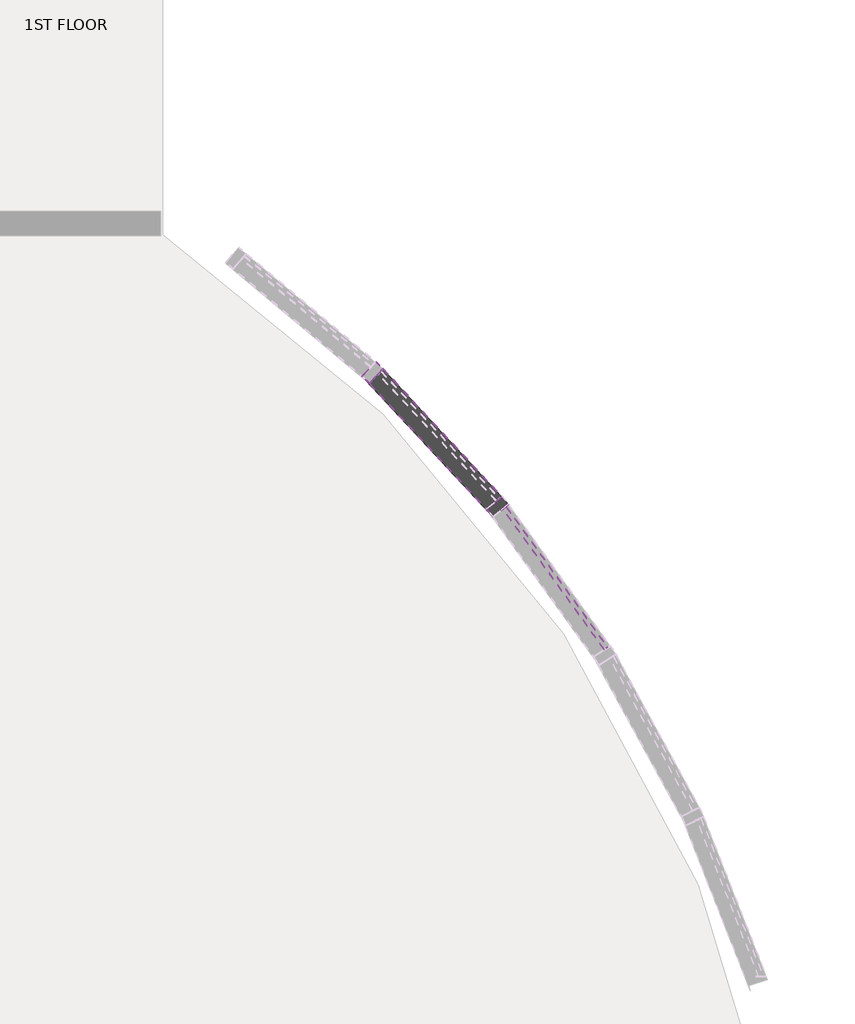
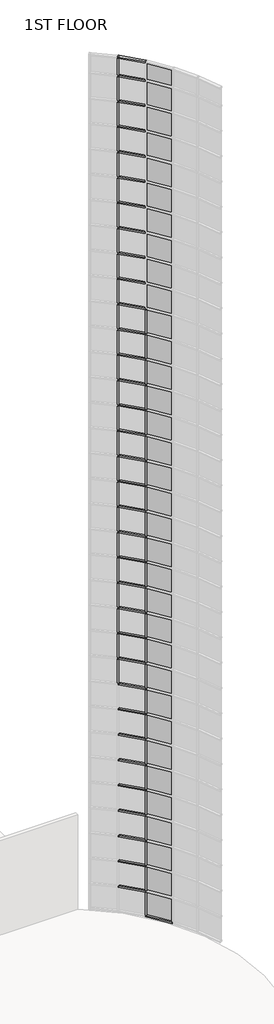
# One storey, part 13 of 17: 84 members, 34 plates.
"""IFC4 building model written with IfcOpenShell, lengths in millimetres."""

from ifc_helpers import new_model, si_unit, origin, place, context, project, spatial, transform, mapped, element, save
from components import member_56cb0dcd, member_0c249660, member_2b49869a, member_410c6227, system_panel_glazed_ce2914f7, system_panel_glazed_e049e42f, system_panel_glazed_5ae89cf9

model = new_model("IFC4")

# Units and contexts
model_context = context("Model", 3, world=origin())
ifc_project = project(units=[si_unit("LENGTHUNIT", "METRE", prefix="MILLI")], contexts=[model_context])

# Site, building, storey
site = spatial("IfcSite", under=ifc_project)
building = spatial("IfcBuilding", under=site)
storey = spatial("IfcBuildingStorey", under=building, Name="1ST FLOOR", Elevation=4572.0)

# Members
placement = place(None, origin())
member_shape = member_56cb0dcd(model_context)
element("IfcMember", 1, ObjectType="Rectangular Mullion : 2.5\" x 5\" rectangular", at=placement, inside=storey, context=model_context, shape_type="MappedRepresentation", body=[
    mapped(member_shape, transform((46140.9446058, 22842.8636289, 45720.0), x_axis=(0.0, 0.0, 1.0), y_axis=(-0.7318464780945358, -0.6814695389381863, 0.0), z_axis=(0.6814695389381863, -0.7318464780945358, 0.0))),
])
element("IfcMember", 2, ObjectType="Rectangular Mullion : 2.5\" x 5\" rectangular", at=placement, inside=storey, context=model_context, shape_type="MappedRepresentation", body=[
    mapped(member_shape, transform((46181.1531398, 22793.8758448, 4572.0), x_axis=(0.0, 0.0, -1.0), y_axis=(-0.8110758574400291, -0.5849409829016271, 0.0), z_axis=(-0.5849409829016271, 0.8110758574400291, 0.0))),
])
member_2_shape = member_0c249660(model_context)
element("IfcMember", 3, ObjectType="Rectangular Mullion : 2.5\" x 5\" rectangular", at=placement, inside=storey, context=model_context, shape_type="MappedRepresentation", body=[
    mapped(member_2_shape, transform((46140.9446058, 22842.8636289, 5791.2), x_axis=(0.0, 0.0, 1.0), y_axis=(-0.7318464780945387, -0.6814695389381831, 0.0), z_axis=(0.6814695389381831, -0.7318464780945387, 0.0))),
])
element("IfcMember", 4, ObjectType="Rectangular Mullion : 2.5\" x 5\" rectangular", at=placement, inside=storey, context=model_context, shape_type="MappedRepresentation", body=[
    mapped(member_2_shape, transform((46140.9446058, 22842.8636289, 7010.4), x_axis=(0.0, 0.0, 1.0), y_axis=(-0.7318464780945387, -0.6814695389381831, 0.0), z_axis=(0.6814695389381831, -0.7318464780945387, 0.0))),
])
element("IfcMember", 5, ObjectType="Rectangular Mullion : 2.5\" x 5\" rectangular", at=placement, inside=storey, context=model_context, shape_type="MappedRepresentation", body=[
    mapped(member_2_shape, transform((46140.9446058, 22842.8636289, 8229.6), x_axis=(0.0, 0.0, 1.0), y_axis=(-0.7318464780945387, -0.6814695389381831, 0.0), z_axis=(0.6814695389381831, -0.7318464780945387, 0.0))),
])
element("IfcMember", 6, ObjectType="Rectangular Mullion : 2.5\" x 5\" rectangular", at=placement, inside=storey, context=model_context, shape_type="MappedRepresentation", body=[
    mapped(member_2_shape, transform((46140.9446058, 22842.8636289, 9448.8), x_axis=(0.0, 0.0, 1.0), y_axis=(-0.7318464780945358, -0.6814695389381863, 0.0), z_axis=(0.6814695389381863, -0.7318464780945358, 0.0))),
])
element("IfcMember", 7, ObjectType="Rectangular Mullion : 2.5\" x 5\" rectangular", at=placement, inside=storey, context=model_context, shape_type="MappedRepresentation", body=[
    mapped(member_2_shape, transform((46140.9446058, 22842.8636289, 10668.0), x_axis=(0.0, 0.0, 1.0), y_axis=(-0.7318464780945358, -0.6814695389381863, 0.0), z_axis=(0.6814695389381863, -0.7318464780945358, 0.0))),
])
element("IfcMember", 8, ObjectType="Rectangular Mullion : 2.5\" x 5\" rectangular", at=placement, inside=storey, context=model_context, shape_type="MappedRepresentation", body=[
    mapped(member_2_shape, transform((46140.9446058, 22842.8636289, 11887.2), x_axis=(0.0, 0.0, 1.0), y_axis=(-0.7318464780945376, -0.6814695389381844, 0.0), z_axis=(0.6814695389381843, -0.7318464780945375, 0.0))),
])
element("IfcMember", 9, ObjectType="Rectangular Mullion : 2.5\" x 5\" rectangular", at=placement, inside=storey, context=model_context, shape_type="MappedRepresentation", body=[
    mapped(member_2_shape, transform((46140.9446058, 22842.8636289, 13106.4), x_axis=(0.0, 0.0, 1.0), y_axis=(-0.7318464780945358, -0.6814695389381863, 0.0), z_axis=(0.6814695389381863, -0.7318464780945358, 0.0))),
])
element("IfcMember", 10, ObjectType="Rectangular Mullion : 2.5\" x 5\" rectangular", at=placement, inside=storey, context=model_context, shape_type="MappedRepresentation", body=[
    mapped(member_2_shape, transform((46140.9446058, 22842.8636289, 14325.6), x_axis=(0.0, 0.0, 1.0), y_axis=(-0.7318464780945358, -0.6814695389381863, 0.0), z_axis=(0.6814695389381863, -0.7318464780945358, 0.0))),
])
element("IfcMember", 11, ObjectType="Rectangular Mullion : 2.5\" x 5\" rectangular", at=placement, inside=storey, context=model_context, shape_type="MappedRepresentation", body=[
    mapped(member_2_shape, transform((46140.9446058, 22842.8636289, 15544.8), x_axis=(0.0, 0.0, 1.0), y_axis=(-0.7318464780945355, -0.6814695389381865, 0.0), z_axis=(0.6814695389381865, -0.7318464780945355, 0.0))),
])
element("IfcMember", 12, ObjectType="Rectangular Mullion : 2.5\" x 5\" rectangular", at=placement, inside=storey, context=model_context, shape_type="MappedRepresentation", body=[
    mapped(member_2_shape, transform((46140.9446058, 22842.8636289, 16764.0), x_axis=(0.0, 0.0, 1.0), y_axis=(-0.7318464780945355, -0.6814695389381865, 0.0), z_axis=(0.6814695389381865, -0.7318464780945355, 0.0))),
])
element("IfcMember", 13, ObjectType="Rectangular Mullion : 2.5\" x 5\" rectangular", at=placement, inside=storey, context=model_context, shape_type="MappedRepresentation", body=[
    mapped(member_2_shape, transform((46140.9446058, 22842.8636289, 17983.2), x_axis=(0.0, 0.0, 1.0), y_axis=(-0.7318464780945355, -0.6814695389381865, 0.0), z_axis=(0.6814695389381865, -0.7318464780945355, 0.0))),
])
element("IfcMember", 14, ObjectType="Rectangular Mullion : 2.5\" x 5\" rectangular", at=placement, inside=storey, context=model_context, shape_type="MappedRepresentation", body=[
    mapped(member_2_shape, transform((46140.9446058, 22842.8636289, 19202.4), x_axis=(0.0, 0.0, 1.0), y_axis=(-0.7318464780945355, -0.6814695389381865, 0.0), z_axis=(0.6814695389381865, -0.7318464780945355, 0.0))),
])
element("IfcMember", 15, ObjectType="Rectangular Mullion : 2.5\" x 5\" rectangular", at=placement, inside=storey, context=model_context, shape_type="MappedRepresentation", body=[
    mapped(member_2_shape, transform((46140.9446058, 22842.8636289, 20421.6), x_axis=(0.0, 0.0, 1.0), y_axis=(-0.7318464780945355, -0.6814695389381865, 0.0), z_axis=(0.6814695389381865, -0.7318464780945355, 0.0))),
])
element("IfcMember", 16, ObjectType="Rectangular Mullion : 2.5\" x 5\" rectangular", at=placement, inside=storey, context=model_context, shape_type="MappedRepresentation", body=[
    mapped(member_2_shape, transform((46140.9446058, 22842.8636289, 21640.8), x_axis=(0.0, 0.0, 1.0), y_axis=(-0.7318464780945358, -0.6814695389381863, 0.0), z_axis=(0.6814695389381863, -0.7318464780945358, 0.0))),
])
element("IfcMember", 17, ObjectType="Rectangular Mullion : 2.5\" x 5\" rectangular", at=placement, inside=storey, context=model_context, shape_type="MappedRepresentation", body=[
    mapped(member_2_shape, transform((46140.9446058, 22842.8636289, 22860.0), x_axis=(0.0, 0.0, 1.0), y_axis=(-0.7318464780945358, -0.6814695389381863, 0.0), z_axis=(0.6814695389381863, -0.7318464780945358, 0.0))),
])
element("IfcMember", 18, ObjectType="Rectangular Mullion : 2.5\" x 5\" rectangular", at=placement, inside=storey, context=model_context, shape_type="MappedRepresentation", body=[
    mapped(member_2_shape, transform((46140.9446058, 22842.8636289, 24079.2), x_axis=(0.0, 0.0, 1.0), y_axis=(-0.7318464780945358, -0.6814695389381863, 0.0), z_axis=(0.6814695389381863, -0.7318464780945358, 0.0))),
])
element("IfcMember", 19, ObjectType="Rectangular Mullion : 2.5\" x 5\" rectangular", at=placement, inside=storey, context=model_context, shape_type="MappedRepresentation", body=[
    mapped(member_2_shape, transform((46140.9446058, 22842.8636289, 25298.4), x_axis=(0.0, 0.0, 1.0), y_axis=(-0.7318464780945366, -0.6814695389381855, 0.0), z_axis=(0.6814695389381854, -0.7318464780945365, 0.0))),
])
element("IfcMember", 20, ObjectType="Rectangular Mullion : 2.5\" x 5\" rectangular", at=placement, inside=storey, context=model_context, shape_type="MappedRepresentation", body=[
    mapped(member_2_shape, transform((46140.9446058, 22842.8636289, 26517.6), x_axis=(0.0, 0.0, 1.0), y_axis=(-0.7318464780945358, -0.6814695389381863, 0.0), z_axis=(0.6814695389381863, -0.7318464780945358, 0.0))),
])
element("IfcMember", 21, ObjectType="Rectangular Mullion : 2.5\" x 5\" rectangular", at=placement, inside=storey, context=model_context, shape_type="MappedRepresentation", body=[
    mapped(member_2_shape, transform((46140.9446058, 22842.8636289, 27736.8), x_axis=(0.0, 0.0, 1.0), y_axis=(-0.7318464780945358, -0.6814695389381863, 0.0), z_axis=(0.6814695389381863, -0.7318464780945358, 0.0))),
])
element("IfcMember", 22, ObjectType="Rectangular Mullion : 2.5\" x 5\" rectangular", at=placement, inside=storey, context=model_context, shape_type="MappedRepresentation", body=[
    mapped(member_2_shape, transform((46140.9446058, 22842.8636289, 28956.0), x_axis=(0.0, 0.0, 1.0), y_axis=(-0.7318464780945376, -0.6814695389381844, 0.0), z_axis=(0.6814695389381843, -0.7318464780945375, 0.0))),
])
element("IfcMember", 23, ObjectType="Rectangular Mullion : 2.5\" x 5\" rectangular", at=placement, inside=storey, context=model_context, shape_type="MappedRepresentation", body=[
    mapped(member_2_shape, transform((46140.9446058, 22842.8636289, 30175.2), x_axis=(0.0, 0.0, 1.0), y_axis=(-0.7318464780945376, -0.6814695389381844, 0.0), z_axis=(0.6814695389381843, -0.7318464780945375, 0.0))),
])
element("IfcMember", 24, ObjectType="Rectangular Mullion : 2.5\" x 5\" rectangular", at=placement, inside=storey, context=model_context, shape_type="MappedRepresentation", body=[
    mapped(member_2_shape, transform((46140.9446058, 22842.8636289, 31394.4), x_axis=(0.0, 0.0, 1.0), y_axis=(-0.7318464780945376, -0.6814695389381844, 0.0), z_axis=(0.6814695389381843, -0.7318464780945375, 0.0))),
])
element("IfcMember", 25, ObjectType="Rectangular Mullion : 2.5\" x 5\" rectangular", at=placement, inside=storey, context=model_context, shape_type="MappedRepresentation", body=[
    mapped(member_2_shape, transform((46140.9446058, 22842.8636289, 32613.6), x_axis=(0.0, 0.0, 1.0), y_axis=(-0.7318464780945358, -0.6814695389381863, 0.0), z_axis=(0.6814695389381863, -0.7318464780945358, 0.0))),
])
element("IfcMember", 26, ObjectType="Rectangular Mullion : 2.5\" x 5\" rectangular", at=placement, inside=storey, context=model_context, shape_type="MappedRepresentation", body=[
    mapped(member_2_shape, transform((46140.9446058, 22842.8636289, 33832.8), x_axis=(0.0, 0.0, 1.0), y_axis=(-0.7318464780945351, -0.6814695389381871, 0.0), z_axis=(0.6814695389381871, -0.7318464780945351, 0.0))),
])
element("IfcMember", 27, ObjectType="Rectangular Mullion : 2.5\" x 5\" rectangular", at=placement, inside=storey, context=model_context, shape_type="MappedRepresentation", body=[
    mapped(member_2_shape, transform((46140.9446058, 22842.8636289, 35052.0), x_axis=(0.0, 0.0, 1.0), y_axis=(-0.7318464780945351, -0.6814695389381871, 0.0), z_axis=(0.6814695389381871, -0.7318464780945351, 0.0))),
])
element("IfcMember", 28, ObjectType="Rectangular Mullion : 2.5\" x 5\" rectangular", at=placement, inside=storey, context=model_context, shape_type="MappedRepresentation", body=[
    mapped(member_2_shape, transform((46140.9446058, 22842.8636289, 36271.2), x_axis=(0.0, 0.0, 1.0), y_axis=(-0.7318464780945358, -0.6814695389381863, 0.0), z_axis=(0.6814695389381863, -0.7318464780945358, 0.0))),
])
element("IfcMember", 29, ObjectType="Rectangular Mullion : 2.5\" x 5\" rectangular", at=placement, inside=storey, context=model_context, shape_type="MappedRepresentation", body=[
    mapped(member_2_shape, transform((46140.9446058, 22842.8636289, 37490.4), x_axis=(0.0, 0.0, 1.0), y_axis=(-0.7318464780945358, -0.6814695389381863, 0.0), z_axis=(0.6814695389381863, -0.7318464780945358, 0.0))),
])
element("IfcMember", 30, ObjectType="Rectangular Mullion : 2.5\" x 5\" rectangular", at=placement, inside=storey, context=model_context, shape_type="MappedRepresentation", body=[
    mapped(member_2_shape, transform((46140.9446058, 22842.8636289, 38709.6), x_axis=(0.0, 0.0, 1.0), y_axis=(-0.7318464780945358, -0.6814695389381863, 0.0), z_axis=(0.6814695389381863, -0.7318464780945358, 0.0))),
])
element("IfcMember", 31, ObjectType="Rectangular Mullion : 2.5\" x 5\" rectangular", at=placement, inside=storey, context=model_context, shape_type="MappedRepresentation", body=[
    mapped(member_2_shape, transform((46140.9446058, 22842.8636289, 39928.8), x_axis=(0.0, 0.0, 1.0), y_axis=(-0.7318464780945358, -0.6814695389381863, 0.0), z_axis=(0.6814695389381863, -0.7318464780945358, 0.0))),
])
element("IfcMember", 32, ObjectType="Rectangular Mullion : 2.5\" x 5\" rectangular", at=placement, inside=storey, context=model_context, shape_type="MappedRepresentation", body=[
    mapped(member_2_shape, transform((46140.9446058, 22842.8636289, 41148.0), x_axis=(0.0, 0.0, 1.0), y_axis=(-0.7318464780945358, -0.6814695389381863, 0.0), z_axis=(0.6814695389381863, -0.7318464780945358, 0.0))),
])
element("IfcMember", 33, ObjectType="Rectangular Mullion : 2.5\" x 5\" rectangular", at=placement, inside=storey, context=model_context, shape_type="MappedRepresentation", body=[
    mapped(member_2_shape, transform((46140.9446058, 22842.8636289, 42367.2), x_axis=(0.0, 0.0, 1.0), y_axis=(-0.7318464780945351, -0.6814695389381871, 0.0), z_axis=(0.6814695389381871, -0.7318464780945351, 0.0))),
])
element("IfcMember", 34, ObjectType="Rectangular Mullion : 2.5\" x 5\" rectangular", at=placement, inside=storey, context=model_context, shape_type="MappedRepresentation", body=[
    mapped(member_2_shape, transform((46140.9446058, 22842.8636289, 43586.4), x_axis=(0.0, 0.0, 1.0), y_axis=(-0.7318464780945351, -0.6814695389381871, 0.0), z_axis=(0.6814695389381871, -0.7318464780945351, 0.0))),
])
element("IfcMember", 35, ObjectType="Rectangular Mullion : 2.5\" x 5\" rectangular", at=placement, inside=storey, context=model_context, shape_type="MappedRepresentation", body=[
    mapped(member_2_shape, transform((46140.9446058, 22842.8636289, 44805.6), x_axis=(0.0, 0.0, 1.0), y_axis=(-0.7318464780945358, -0.6814695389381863, 0.0), z_axis=(0.6814695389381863, -0.7318464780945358, 0.0))),
])
member_3_shape = member_2b49869a(model_context)
element("IfcMember", 36, ObjectType="Rectangular Mullion : 2.5\" x 5\" rectangular", at=placement, inside=storey, context=model_context, shape_type="MappedRepresentation", body=[
    mapped(member_3_shape, transform((46162.5812636, 22819.6275032, 4572.0), x_axis=(0.634443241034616, -0.7729694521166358, 0.0), y_axis=(-0.7729694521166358, -0.634443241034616, 0.0), z_axis=(0.0, 0.0, -1.0))),
])
element("IfcMember", 37, ObjectType="Rectangular Mullion : 2.5\" x 5\" rectangular", at=placement, inside=storey, context=model_context, shape_type="MappedRepresentation", body=[
    mapped(member_3_shape, transform((46162.5812636, 22819.6275032, 5791.2), x_axis=(0.634443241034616, -0.7729694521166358, 0.0), y_axis=(-0.7729694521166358, -0.634443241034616, 0.0), z_axis=(0.0, 0.0, -1.0))),
])
element("IfcMember", 38, ObjectType="Rectangular Mullion : 2.5\" x 5\" rectangular", at=placement, inside=storey, context=model_context, shape_type="MappedRepresentation", body=[
    mapped(member_3_shape, transform((46162.5812636, 22819.6275032, 7010.4), x_axis=(0.634443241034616, -0.7729694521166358, 0.0), y_axis=(-0.7729694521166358, -0.634443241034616, 0.0), z_axis=(0.0, 0.0, -1.0))),
])
element("IfcMember", 39, ObjectType="Rectangular Mullion : 2.5\" x 5\" rectangular", at=placement, inside=storey, context=model_context, shape_type="MappedRepresentation", body=[
    mapped(member_3_shape, transform((46162.5812636, 22819.6275032, 8229.6), x_axis=(0.634443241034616, -0.7729694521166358, 0.0), y_axis=(-0.7729694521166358, -0.634443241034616, 0.0), z_axis=(0.0, 0.0, -1.0))),
])
element("IfcMember", 40, ObjectType="Rectangular Mullion : 2.5\" x 5\" rectangular", at=placement, inside=storey, context=model_context, shape_type="MappedRepresentation", body=[
    mapped(member_3_shape, transform((46162.5812636, 22819.6275032, 9448.8), x_axis=(0.6344432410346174, -0.7729694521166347, 0.0), y_axis=(-0.7729694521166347, -0.6344432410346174, 0.0), z_axis=(0.0, 0.0, -1.0))),
])
element("IfcMember", 41, ObjectType="Rectangular Mullion : 2.5\" x 5\" rectangular", at=placement, inside=storey, context=model_context, shape_type="MappedRepresentation", body=[
    mapped(member_3_shape, transform((46162.5812636, 22819.6275032, 10668.0), x_axis=(0.6344432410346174, -0.7729694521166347, 0.0), y_axis=(-0.7729694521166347, -0.6344432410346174, 0.0), z_axis=(0.0, 0.0, -1.0))),
])
element("IfcMember", 42, ObjectType="Rectangular Mullion : 2.5\" x 5\" rectangular", at=placement, inside=storey, context=model_context, shape_type="MappedRepresentation", body=[
    mapped(member_3_shape, transform((46162.5812636, 22819.6275032, 11887.2), x_axis=(0.634443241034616, -0.7729694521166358, 0.0), y_axis=(-0.7729694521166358, -0.634443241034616, 0.0), z_axis=(0.0, 0.0, -1.0))),
])
element("IfcMember", 43, ObjectType="Rectangular Mullion : 2.5\" x 5\" rectangular", at=placement, inside=storey, context=model_context, shape_type="MappedRepresentation", body=[
    mapped(member_3_shape, transform((46162.5812636, 22819.6275032, 13106.4), x_axis=(0.6344432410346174, -0.7729694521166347, 0.0), y_axis=(-0.7729694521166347, -0.6344432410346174, 0.0), z_axis=(0.0, 0.0, -1.0))),
])
element("IfcMember", 44, ObjectType="Rectangular Mullion : 2.5\" x 5\" rectangular", at=placement, inside=storey, context=model_context, shape_type="MappedRepresentation", body=[
    mapped(member_3_shape, transform((46162.5812636, 22819.6275032, 14325.6), x_axis=(0.6344432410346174, -0.7729694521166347, 0.0), y_axis=(-0.7729694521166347, -0.6344432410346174, 0.0), z_axis=(0.0, 0.0, -1.0))),
])
element("IfcMember", 45, ObjectType="Rectangular Mullion : 2.5\" x 5\" rectangular", at=placement, inside=storey, context=model_context, shape_type="MappedRepresentation", body=[
    mapped(member_3_shape, transform((45371.1685401, 23669.5446035, 15544.8), x_axis=(0.7258363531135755, -0.6878674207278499, 0.0), y_axis=(-0.6878674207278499, -0.7258363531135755, 0.0), z_axis=(0.0, 0.0, -1.0))),
])
element("IfcMember", 46, ObjectType="Rectangular Mullion : 2.5\" x 5\" rectangular", at=placement, inside=storey, context=model_context, shape_type="MappedRepresentation", body=[
    mapped(member_3_shape, transform((46162.5812636, 22819.6275032, 15544.8), x_axis=(0.6344432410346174, -0.7729694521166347, 0.0), y_axis=(-0.7729694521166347, -0.6344432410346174, 0.0), z_axis=(0.0, 0.0, -1.0))),
])
element("IfcMember", 47, ObjectType="Rectangular Mullion : 2.5\" x 5\" rectangular", at=placement, inside=storey, context=model_context, shape_type="MappedRepresentation", body=[
    mapped(member_3_shape, transform((45371.1685401, 23669.5446035, 16764.0), x_axis=(0.7258363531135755, -0.6878674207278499, 0.0), y_axis=(-0.6878674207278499, -0.7258363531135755, 0.0), z_axis=(0.0, 0.0, -1.0))),
])
element("IfcMember", 48, ObjectType="Rectangular Mullion : 2.5\" x 5\" rectangular", at=placement, inside=storey, context=model_context, shape_type="MappedRepresentation", body=[
    mapped(member_3_shape, transform((46162.5812636, 22819.6275032, 16764.0), x_axis=(0.6344432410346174, -0.7729694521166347, 0.0), y_axis=(-0.7729694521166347, -0.6344432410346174, 0.0), z_axis=(0.0, 0.0, -1.0))),
])
element("IfcMember", 49, ObjectType="Rectangular Mullion : 2.5\" x 5\" rectangular", at=placement, inside=storey, context=model_context, shape_type="MappedRepresentation", body=[
    mapped(member_3_shape, transform((45371.1685401, 23669.5446035, 17983.2), x_axis=(0.7258363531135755, -0.6878674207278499, 0.0), y_axis=(-0.6878674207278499, -0.7258363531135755, 0.0), z_axis=(0.0, 0.0, -1.0))),
])
element("IfcMember", 50, ObjectType="Rectangular Mullion : 2.5\" x 5\" rectangular", at=placement, inside=storey, context=model_context, shape_type="MappedRepresentation", body=[
    mapped(member_3_shape, transform((46162.5812636, 22819.6275032, 17983.2), x_axis=(0.6344432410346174, -0.7729694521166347, 0.0), y_axis=(-0.7729694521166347, -0.6344432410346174, 0.0), z_axis=(0.0, 0.0, -1.0))),
])
element("IfcMember", 51, ObjectType="Rectangular Mullion : 2.5\" x 5\" rectangular", at=placement, inside=storey, context=model_context, shape_type="MappedRepresentation", body=[
    mapped(member_3_shape, transform((45371.1685401, 23669.5446035, 19202.4), x_axis=(0.7258363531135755, -0.6878674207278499, 0.0), y_axis=(-0.6878674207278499, -0.7258363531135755, 0.0), z_axis=(0.0, 0.0, -1.0))),
])
element("IfcMember", 52, ObjectType="Rectangular Mullion : 2.5\" x 5\" rectangular", at=placement, inside=storey, context=model_context, shape_type="MappedRepresentation", body=[
    mapped(member_3_shape, transform((46162.5812636, 22819.6275032, 19202.4), x_axis=(0.6344432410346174, -0.7729694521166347, 0.0), y_axis=(-0.7729694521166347, -0.6344432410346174, 0.0), z_axis=(0.0, 0.0, -1.0))),
])
element("IfcMember", 53, ObjectType="Rectangular Mullion : 2.5\" x 5\" rectangular", at=placement, inside=storey, context=model_context, shape_type="MappedRepresentation", body=[
    mapped(member_3_shape, transform((45371.1685401, 23669.5446035, 20421.6), x_axis=(0.7258363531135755, -0.6878674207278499, 0.0), y_axis=(-0.6878674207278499, -0.7258363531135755, 0.0), z_axis=(0.0, 0.0, -1.0))),
])
element("IfcMember", 54, ObjectType="Rectangular Mullion : 2.5\" x 5\" rectangular", at=placement, inside=storey, context=model_context, shape_type="MappedRepresentation", body=[
    mapped(member_3_shape, transform((46162.5812636, 22819.6275032, 20421.6), x_axis=(0.6344432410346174, -0.7729694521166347, 0.0), y_axis=(-0.7729694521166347, -0.6344432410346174, 0.0), z_axis=(0.0, 0.0, -1.0))),
])
element("IfcMember", 55, ObjectType="Rectangular Mullion : 2.5\" x 5\" rectangular", at=placement, inside=storey, context=model_context, shape_type="MappedRepresentation", body=[
    mapped(member_3_shape, transform((45371.1685401, 23669.5446035, 21640.8), x_axis=(0.7258363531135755, -0.6878674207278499, 0.0), y_axis=(-0.6878674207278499, -0.7258363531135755, 0.0), z_axis=(0.0, 0.0, -1.0))),
])
element("IfcMember", 56, ObjectType="Rectangular Mullion : 2.5\" x 5\" rectangular", at=placement, inside=storey, context=model_context, shape_type="MappedRepresentation", body=[
    mapped(member_3_shape, transform((46162.5812636, 22819.6275032, 21640.8), x_axis=(0.6344432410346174, -0.7729694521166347, 0.0), y_axis=(-0.7729694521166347, -0.6344432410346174, 0.0), z_axis=(0.0, 0.0, -1.0))),
])
element("IfcMember", 57, ObjectType="Rectangular Mullion : 2.5\" x 5\" rectangular", at=placement, inside=storey, context=model_context, shape_type="MappedRepresentation", body=[
    mapped(member_3_shape, transform((45371.1685401, 23669.5446035, 22860.0), x_axis=(0.725836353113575, -0.6878674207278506, 0.0), y_axis=(-0.6878674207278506, -0.725836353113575, 0.0), z_axis=(0.0, 0.0, -1.0))),
])
element("IfcMember", 58, ObjectType="Rectangular Mullion : 2.5\" x 5\" rectangular", at=placement, inside=storey, context=model_context, shape_type="MappedRepresentation", body=[
    mapped(member_3_shape, transform((46162.5812636, 22819.6275032, 22860.0), x_axis=(0.6344432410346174, -0.7729694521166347, 0.0), y_axis=(-0.7729694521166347, -0.6344432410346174, 0.0), z_axis=(0.0, 0.0, -1.0))),
])
element("IfcMember", 59, ObjectType="Rectangular Mullion : 2.5\" x 5\" rectangular", at=placement, inside=storey, context=model_context, shape_type="MappedRepresentation", body=[
    mapped(member_3_shape, transform((45371.1685401, 23669.5446035, 24079.2), x_axis=(0.725836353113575, -0.6878674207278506, 0.0), y_axis=(-0.6878674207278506, -0.725836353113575, 0.0), z_axis=(0.0, 0.0, -1.0))),
])
element("IfcMember", 60, ObjectType="Rectangular Mullion : 2.5\" x 5\" rectangular", at=placement, inside=storey, context=model_context, shape_type="MappedRepresentation", body=[
    mapped(member_3_shape, transform((46162.5812636, 22819.6275032, 24079.2), x_axis=(0.6344432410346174, -0.7729694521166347, 0.0), y_axis=(-0.7729694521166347, -0.6344432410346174, 0.0), z_axis=(0.0, 0.0, -1.0))),
])
element("IfcMember", 61, ObjectType="Rectangular Mullion : 2.5\" x 5\" rectangular", at=placement, inside=storey, context=model_context, shape_type="MappedRepresentation", body=[
    mapped(member_3_shape, transform((45371.1685401, 23669.5446035, 25298.4), x_axis=(0.7258363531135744, -0.6878674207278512, 0.0), y_axis=(-0.6878674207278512, -0.7258363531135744, 0.0), z_axis=(0.0, 0.0, -1.0))),
])
element("IfcMember", 62, ObjectType="Rectangular Mullion : 2.5\" x 5\" rectangular", at=placement, inside=storey, context=model_context, shape_type="MappedRepresentation", body=[
    mapped(member_3_shape, transform((46162.5812636, 22819.6275032, 25298.4), x_axis=(0.6344432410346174, -0.7729694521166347, 0.0), y_axis=(-0.7729694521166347, -0.6344432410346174, 0.0), z_axis=(0.0, 0.0, -1.0))),
])
element("IfcMember", 63, ObjectType="Rectangular Mullion : 2.5\" x 5\" rectangular", at=placement, inside=storey, context=model_context, shape_type="MappedRepresentation", body=[
    mapped(member_3_shape, transform((45371.1685401, 23669.5446035, 26517.6), x_axis=(0.725836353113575, -0.6878674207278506, 0.0), y_axis=(-0.6878674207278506, -0.725836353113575, 0.0), z_axis=(0.0, 0.0, -1.0))),
])
element("IfcMember", 64, ObjectType="Rectangular Mullion : 2.5\" x 5\" rectangular", at=placement, inside=storey, context=model_context, shape_type="MappedRepresentation", body=[
    mapped(member_3_shape, transform((46162.5812636, 22819.6275032, 26517.6), x_axis=(0.6344432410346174, -0.7729694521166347, 0.0), y_axis=(-0.7729694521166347, -0.6344432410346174, 0.0), z_axis=(0.0, 0.0, -1.0))),
])
element("IfcMember", 65, ObjectType="Rectangular Mullion : 2.5\" x 5\" rectangular", at=placement, inside=storey, context=model_context, shape_type="MappedRepresentation", body=[
    mapped(member_3_shape, transform((45371.1685401, 23669.5446035, 27736.8), x_axis=(0.725836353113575, -0.6878674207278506, 0.0), y_axis=(-0.6878674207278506, -0.725836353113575, 0.0), z_axis=(0.0, 0.0, -1.0))),
])
element("IfcMember", 66, ObjectType="Rectangular Mullion : 2.5\" x 5\" rectangular", at=placement, inside=storey, context=model_context, shape_type="MappedRepresentation", body=[
    mapped(member_3_shape, transform((46162.5812636, 22819.6275032, 27736.8), x_axis=(0.6344432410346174, -0.7729694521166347, 0.0), y_axis=(-0.7729694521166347, -0.6344432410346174, 0.0), z_axis=(0.0, 0.0, -1.0))),
])
element("IfcMember", 67, ObjectType="Rectangular Mullion : 2.5\" x 5\" rectangular", at=placement, inside=storey, context=model_context, shape_type="MappedRepresentation", body=[
    mapped(member_3_shape, transform((45371.1685401, 23669.5446035, 28956.0), x_axis=(0.725836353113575, -0.6878674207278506, 0.0), y_axis=(-0.6878674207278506, -0.725836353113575, 0.0), z_axis=(0.0, 0.0, -1.0))),
])
element("IfcMember", 68, ObjectType="Rectangular Mullion : 2.5\" x 5\" rectangular", at=placement, inside=storey, context=model_context, shape_type="MappedRepresentation", body=[
    mapped(member_3_shape, transform((46162.5812636, 22819.6275032, 28956.0), x_axis=(0.634443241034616, -0.7729694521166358, 0.0), y_axis=(-0.7729694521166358, -0.634443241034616, 0.0), z_axis=(0.0, 0.0, -1.0))),
])
element("IfcMember", 69, ObjectType="Rectangular Mullion : 2.5\" x 5\" rectangular", at=placement, inside=storey, context=model_context, shape_type="MappedRepresentation", body=[
    mapped(member_3_shape, transform((45371.1685401, 23669.5446035, 30175.2), x_axis=(0.725836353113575, -0.6878674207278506, 0.0), y_axis=(-0.6878674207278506, -0.725836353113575, 0.0), z_axis=(0.0, 0.0, -1.0))),
])
element("IfcMember", 70, ObjectType="Rectangular Mullion : 2.5\" x 5\" rectangular", at=placement, inside=storey, context=model_context, shape_type="MappedRepresentation", body=[
    mapped(member_3_shape, transform((46162.5812636, 22819.6275032, 30175.2), x_axis=(0.634443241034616, -0.7729694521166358, 0.0), y_axis=(-0.7729694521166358, -0.634443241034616, 0.0), z_axis=(0.0, 0.0, -1.0))),
])
element("IfcMember", 71, ObjectType="Rectangular Mullion : 2.5\" x 5\" rectangular", at=placement, inside=storey, context=model_context, shape_type="MappedRepresentation", body=[
    mapped(member_3_shape, transform((45371.1685401, 23669.5446035, 31394.4), x_axis=(0.7258363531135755, -0.6878674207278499, 0.0), y_axis=(-0.6878674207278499, -0.7258363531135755, 0.0), z_axis=(0.0, 0.0, -1.0))),
])
element("IfcMember", 72, ObjectType="Rectangular Mullion : 2.5\" x 5\" rectangular", at=placement, inside=storey, context=model_context, shape_type="MappedRepresentation", body=[
    mapped(member_3_shape, transform((46162.5812636, 22819.6275032, 31394.4), x_axis=(0.634443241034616, -0.7729694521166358, 0.0), y_axis=(-0.7729694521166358, -0.634443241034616, 0.0), z_axis=(0.0, 0.0, -1.0))),
])
element("IfcMember", 73, ObjectType="Rectangular Mullion : 2.5\" x 5\" rectangular", at=placement, inside=storey, context=model_context, shape_type="MappedRepresentation", body=[
    mapped(member_3_shape, transform((45371.1685401, 23669.5446035, 32613.6), x_axis=(0.7258363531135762, -0.6878674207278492, 0.0), y_axis=(-0.6878674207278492, -0.7258363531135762, 0.0), z_axis=(0.0, 0.0, -1.0))),
])
element("IfcMember", 74, ObjectType="Rectangular Mullion : 2.5\" x 5\" rectangular", at=placement, inside=storey, context=model_context, shape_type="MappedRepresentation", body=[
    mapped(member_3_shape, transform((46162.5812636, 22819.6275032, 32613.6), x_axis=(0.6344432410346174, -0.7729694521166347, 0.0), y_axis=(-0.7729694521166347, -0.6344432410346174, 0.0), z_axis=(0.0, 0.0, -1.0))),
])
element("IfcMember", 75, ObjectType="Rectangular Mullion : 2.5\" x 5\" rectangular", at=placement, inside=storey, context=model_context, shape_type="MappedRepresentation", body=[
    mapped(member_3_shape, transform((45371.1685401, 23669.5446035, 33832.8), x_axis=(0.7258363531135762, -0.6878674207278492, 0.0), y_axis=(-0.6878674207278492, -0.7258363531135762, 0.0), z_axis=(0.0, 0.0, -1.0))),
])
element("IfcMember", 76, ObjectType="Rectangular Mullion : 2.5\" x 5\" rectangular", at=placement, inside=storey, context=model_context, shape_type="MappedRepresentation", body=[
    mapped(member_3_shape, transform((45371.1685401, 23669.5446035, 35052.0), x_axis=(0.7258363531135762, -0.6878674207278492, 0.0), y_axis=(-0.6878674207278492, -0.7258363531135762, 0.0), z_axis=(0.0, 0.0, -1.0))),
])
element("IfcMember", 77, ObjectType="Rectangular Mullion : 2.5\" x 5\" rectangular", at=placement, inside=storey, context=model_context, shape_type="MappedRepresentation", body=[
    mapped(member_3_shape, transform((45371.1685401, 23669.5446035, 36271.2), x_axis=(0.7258363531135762, -0.6878674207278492, 0.0), y_axis=(-0.6878674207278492, -0.7258363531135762, 0.0), z_axis=(0.0, 0.0, -1.0))),
])
element("IfcMember", 78, ObjectType="Rectangular Mullion : 2.5\" x 5\" rectangular", at=placement, inside=storey, context=model_context, shape_type="MappedRepresentation", body=[
    mapped(member_3_shape, transform((45371.1685401, 23669.5446035, 37490.4), x_axis=(0.7258363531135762, -0.6878674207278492, 0.0), y_axis=(-0.6878674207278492, -0.7258363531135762, 0.0), z_axis=(0.0, 0.0, -1.0))),
])
element("IfcMember", 79, ObjectType="Rectangular Mullion : 2.5\" x 5\" rectangular", at=placement, inside=storey, context=model_context, shape_type="MappedRepresentation", body=[
    mapped(member_3_shape, transform((45371.1685401, 23669.5446035, 38709.6), x_axis=(0.7258363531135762, -0.6878674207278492, 0.0), y_axis=(-0.6878674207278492, -0.7258363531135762, 0.0), z_axis=(0.0, 0.0, -1.0))),
])
element("IfcMember", 80, ObjectType="Rectangular Mullion : 2.5\" x 5\" rectangular", at=placement, inside=storey, context=model_context, shape_type="MappedRepresentation", body=[
    mapped(member_3_shape, transform((45371.1685401, 23669.5446035, 39928.8), x_axis=(0.7258363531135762, -0.6878674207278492, 0.0), y_axis=(-0.6878674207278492, -0.7258363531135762, 0.0), z_axis=(0.0, 0.0, -1.0))),
])
element("IfcMember", 81, ObjectType="Rectangular Mullion : 2.5\" x 5\" rectangular", at=placement, inside=storey, context=model_context, shape_type="MappedRepresentation", body=[
    mapped(member_3_shape, transform((45371.1685401, 23669.5446035, 41148.0), x_axis=(0.7258363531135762, -0.6878674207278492, 0.0), y_axis=(-0.6878674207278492, -0.7258363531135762, 0.0), z_axis=(0.0, 0.0, -1.0))),
])
element("IfcMember", 82, ObjectType="Rectangular Mullion : 2.5\" x 5\" rectangular", at=placement, inside=storey, context=model_context, shape_type="MappedRepresentation", body=[
    mapped(member_3_shape, transform((45371.1685401, 23669.5446035, 42367.2), x_axis=(0.7258363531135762, -0.6878674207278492, 0.0), y_axis=(-0.6878674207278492, -0.7258363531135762, 0.0), z_axis=(0.0, 0.0, -1.0))),
])
element("IfcMember", 83, ObjectType="Rectangular Mullion : 2.5\" x 5\" rectangular", at=placement, inside=storey, context=model_context, shape_type="MappedRepresentation", body=[
    mapped(member_3_shape, transform((45371.1685401, 23669.5446035, 43586.4), x_axis=(0.7258363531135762, -0.6878674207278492, 0.0), y_axis=(-0.6878674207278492, -0.7258363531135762, 0.0), z_axis=(0.0, 0.0, -1.0))),
])
member_4_shape = member_410c6227(model_context)
element("IfcMember", 84, ObjectType="Rectangular Mullion : 2.5\" x 5\" rectangular", at=placement, inside=storey, context=model_context, shape_type="MappedRepresentation", body=[
    mapped(member_4_shape, transform((45371.1685401, 23669.5446035, 44805.6), x_axis=(0.7258363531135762, -0.6878674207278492, 0.0), y_axis=(-0.6878674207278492, -0.7258363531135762, 0.0), z_axis=(0.0, 0.0, -1.0))),
])

# Plates
system_panel_glazed_shape = system_panel_glazed_ce2914f7(model_context)
element("IfcPlate", 85, ObjectType="System Panel : Glazed", at=placement, inside=storey, context=model_context, shape_type="MappedRepresentation", body=[
    mapped(system_panel_glazed_shape, transform((46502.2367507, 22348.6631265, 4635.5), x_axis=(0.5849409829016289, -0.8110758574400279, 0.0), y_axis=(0.8110758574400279, 0.5849409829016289, 0.0), z_axis=(0.0, 0.0, 1.0))),
])
system_panel_glazed_2_shape = system_panel_glazed_e049e42f(model_context)
element("IfcPlate", 86, ObjectType="System Panel : Glazed", at=placement, inside=storey, context=model_context, shape_type="MappedRepresentation", body=[
    mapped(system_panel_glazed_2_shape, transform((46502.2367507, 22348.6631265, 5822.95), x_axis=(0.5849409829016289, -0.8110758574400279, 0.0), y_axis=(0.8110758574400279, 0.5849409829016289, 0.0), z_axis=(0.0, 0.0, 1.0))),
])
element("IfcPlate", 87, ObjectType="System Panel : Glazed", at=placement, inside=storey, context=model_context, shape_type="MappedRepresentation", body=[
    mapped(system_panel_glazed_2_shape, transform((46502.2367507, 22348.6631265, 7042.15), x_axis=(0.5849409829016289, -0.8110758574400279, 0.0), y_axis=(0.8110758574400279, 0.5849409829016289, 0.0), z_axis=(0.0, 0.0, 1.0))),
])
element("IfcPlate", 88, ObjectType="System Panel : Glazed", at=placement, inside=storey, context=model_context, shape_type="MappedRepresentation", body=[
    mapped(system_panel_glazed_2_shape, transform((46502.2367507, 22348.6631265, 8261.35), x_axis=(0.5849409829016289, -0.8110758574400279, 0.0), y_axis=(0.8110758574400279, 0.5849409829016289, 0.0), z_axis=(0.0, 0.0, 1.0))),
])
element("IfcPlate", 89, ObjectType="System Panel : Glazed", at=placement, inside=storey, context=model_context, shape_type="MappedRepresentation", body=[
    mapped(system_panel_glazed_2_shape, transform((46502.2367507, 22348.6631265, 9480.55), x_axis=(0.5849409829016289, -0.8110758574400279, 0.0), y_axis=(0.8110758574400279, 0.5849409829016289, 0.0), z_axis=(0.0, 0.0, 1.0))),
])
element("IfcPlate", 90, ObjectType="System Panel : Glazed", at=placement, inside=storey, context=model_context, shape_type="MappedRepresentation", body=[
    mapped(system_panel_glazed_2_shape, transform((46502.2367507, 22348.6631265, 10699.75), x_axis=(0.5849409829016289, -0.8110758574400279, 0.0), y_axis=(0.8110758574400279, 0.5849409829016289, 0.0), z_axis=(0.0, 0.0, 1.0))),
])
element("IfcPlate", 91, ObjectType="System Panel : Glazed", at=placement, inside=storey, context=model_context, shape_type="MappedRepresentation", body=[
    mapped(system_panel_glazed_2_shape, transform((46502.2367507, 22348.6631265, 11918.95), x_axis=(0.5849409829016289, -0.8110758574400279, 0.0), y_axis=(0.8110758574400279, 0.5849409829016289, 0.0), z_axis=(0.0, 0.0, 1.0))),
])
element("IfcPlate", 92, ObjectType="System Panel : Glazed", at=placement, inside=storey, context=model_context, shape_type="MappedRepresentation", body=[
    mapped(system_panel_glazed_2_shape, transform((46502.2367507, 22348.6631265, 13138.15), x_axis=(0.5849409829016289, -0.8110758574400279, 0.0), y_axis=(0.8110758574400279, 0.5849409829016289, 0.0), z_axis=(0.0, 0.0, 1.0))),
])
element("IfcPlate", 93, ObjectType="System Panel : Glazed", at=placement, inside=storey, context=model_context, shape_type="MappedRepresentation", body=[
    mapped(system_panel_glazed_2_shape, transform((46502.2367507, 22348.6631265, 14357.35), x_axis=(0.5849409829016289, -0.8110758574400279, 0.0), y_axis=(0.8110758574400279, 0.5849409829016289, 0.0), z_axis=(0.0, 0.0, 1.0))),
])
element("IfcPlate", 94, ObjectType="System Panel : Glazed", at=placement, inside=storey, context=model_context, shape_type="MappedRepresentation", body=[
    mapped(system_panel_glazed_2_shape, transform((46502.2367507, 22348.6631265, 15576.55), x_axis=(0.5849409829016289, -0.8110758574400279, 0.0), y_axis=(0.8110758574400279, 0.5849409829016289, 0.0), z_axis=(0.0, 0.0, 1.0))),
])
element("IfcPlate", 95, ObjectType="System Panel : Glazed", at=placement, inside=storey, context=model_context, shape_type="MappedRepresentation", body=[
    mapped(system_panel_glazed_2_shape, transform((46502.2367507, 22348.6631265, 16795.75), x_axis=(0.5849409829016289, -0.8110758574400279, 0.0), y_axis=(0.8110758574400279, 0.5849409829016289, 0.0), z_axis=(0.0, 0.0, 1.0))),
])
element("IfcPlate", 96, ObjectType="System Panel : Glazed", at=placement, inside=storey, context=model_context, shape_type="MappedRepresentation", body=[
    mapped(system_panel_glazed_2_shape, transform((46502.2367507, 22348.6631265, 18014.95), x_axis=(0.5849409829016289, -0.8110758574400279, 0.0), y_axis=(0.8110758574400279, 0.5849409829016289, 0.0), z_axis=(0.0, 0.0, 1.0))),
])
element("IfcPlate", 97, ObjectType="System Panel : Glazed", at=placement, inside=storey, context=model_context, shape_type="MappedRepresentation", body=[
    mapped(system_panel_glazed_2_shape, transform((46502.2367507, 22348.6631265, 19234.15), x_axis=(0.5849409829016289, -0.8110758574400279, 0.0), y_axis=(0.8110758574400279, 0.5849409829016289, 0.0), z_axis=(0.0, 0.0, 1.0))),
])
element("IfcPlate", 98, ObjectType="System Panel : Glazed", at=placement, inside=storey, context=model_context, shape_type="MappedRepresentation", body=[
    mapped(system_panel_glazed_2_shape, transform((46502.2367507, 22348.6631265, 20453.35), x_axis=(0.5849409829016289, -0.8110758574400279, 0.0), y_axis=(0.8110758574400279, 0.5849409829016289, 0.0), z_axis=(0.0, 0.0, 1.0))),
])
element("IfcPlate", 99, ObjectType="System Panel : Glazed", at=placement, inside=storey, context=model_context, shape_type="MappedRepresentation", body=[
    mapped(system_panel_glazed_2_shape, transform((46502.2367507, 22348.6631265, 21672.55), x_axis=(0.5849409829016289, -0.8110758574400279, 0.0), y_axis=(0.8110758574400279, 0.5849409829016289, 0.0), z_axis=(0.0, 0.0, 1.0))),
])
element("IfcPlate", 100, ObjectType="System Panel : Glazed", at=placement, inside=storey, context=model_context, shape_type="MappedRepresentation", body=[
    mapped(system_panel_glazed_2_shape, transform((46502.2367507, 22348.6631265, 22891.75), x_axis=(0.5849409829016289, -0.8110758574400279, 0.0), y_axis=(0.8110758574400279, 0.5849409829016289, 0.0), z_axis=(0.0, 0.0, 1.0))),
])
element("IfcPlate", 101, ObjectType="System Panel : Glazed", at=placement, inside=storey, context=model_context, shape_type="MappedRepresentation", body=[
    mapped(system_panel_glazed_2_shape, transform((46502.2367507, 22348.6631265, 24110.95), x_axis=(0.5849409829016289, -0.8110758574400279, 0.0), y_axis=(0.8110758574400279, 0.5849409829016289, 0.0), z_axis=(0.0, 0.0, 1.0))),
])
element("IfcPlate", 102, ObjectType="System Panel : Glazed", at=placement, inside=storey, context=model_context, shape_type="MappedRepresentation", body=[
    mapped(system_panel_glazed_2_shape, transform((46502.2367507, 22348.6631265, 25330.15), x_axis=(0.5849409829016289, -0.8110758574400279, 0.0), y_axis=(0.8110758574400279, 0.5849409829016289, 0.0), z_axis=(0.0, 0.0, 1.0))),
])
element("IfcPlate", 103, ObjectType="System Panel : Glazed", at=placement, inside=storey, context=model_context, shape_type="MappedRepresentation", body=[
    mapped(system_panel_glazed_2_shape, transform((46502.2367507, 22348.6631265, 26549.35), x_axis=(0.5849409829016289, -0.8110758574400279, 0.0), y_axis=(0.8110758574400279, 0.5849409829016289, 0.0), z_axis=(0.0, 0.0, 1.0))),
])
element("IfcPlate", 104, ObjectType="System Panel : Glazed", at=placement, inside=storey, context=model_context, shape_type="MappedRepresentation", body=[
    mapped(system_panel_glazed_2_shape, transform((46502.2367507, 22348.6631265, 27768.55), x_axis=(0.5849409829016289, -0.8110758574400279, 0.0), y_axis=(0.8110758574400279, 0.5849409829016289, 0.0), z_axis=(0.0, 0.0, 1.0))),
])
element("IfcPlate", 105, ObjectType="System Panel : Glazed", at=placement, inside=storey, context=model_context, shape_type="MappedRepresentation", body=[
    mapped(system_panel_glazed_2_shape, transform((46502.2367507, 22348.6631265, 28987.75), x_axis=(0.5849409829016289, -0.8110758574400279, 0.0), y_axis=(0.8110758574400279, 0.5849409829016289, 0.0), z_axis=(0.0, 0.0, 1.0))),
])
element("IfcPlate", 106, ObjectType="System Panel : Glazed", at=placement, inside=storey, context=model_context, shape_type="MappedRepresentation", body=[
    mapped(system_panel_glazed_2_shape, transform((46502.2367507, 22348.6631265, 30206.95), x_axis=(0.5849409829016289, -0.8110758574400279, 0.0), y_axis=(0.8110758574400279, 0.5849409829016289, 0.0), z_axis=(0.0, 0.0, 1.0))),
])
element("IfcPlate", 107, ObjectType="System Panel : Glazed", at=placement, inside=storey, context=model_context, shape_type="MappedRepresentation", body=[
    mapped(system_panel_glazed_2_shape, transform((46502.2367507, 22348.6631265, 31426.15), x_axis=(0.5849409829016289, -0.8110758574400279, 0.0), y_axis=(0.8110758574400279, 0.5849409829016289, 0.0), z_axis=(0.0, 0.0, 1.0))),
])
element("IfcPlate", 108, ObjectType="System Panel : Glazed", at=placement, inside=storey, context=model_context, shape_type="MappedRepresentation", body=[
    mapped(system_panel_glazed_2_shape, transform((46502.2367507, 22348.6631265, 32645.35), x_axis=(0.5849409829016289, -0.8110758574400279, 0.0), y_axis=(0.8110758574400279, 0.5849409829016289, 0.0), z_axis=(0.0, 0.0, 1.0))),
])
element("IfcPlate", 109, ObjectType="System Panel : Glazed", at=placement, inside=storey, context=model_context, shape_type="MappedRepresentation", body=[
    mapped(system_panel_glazed_2_shape, transform((46502.2367507, 22348.6631265, 33864.55), x_axis=(0.5849409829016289, -0.8110758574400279, 0.0), y_axis=(0.8110758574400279, 0.5849409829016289, 0.0), z_axis=(0.0, 0.0, 1.0))),
])
element("IfcPlate", 110, ObjectType="System Panel : Glazed", at=placement, inside=storey, context=model_context, shape_type="MappedRepresentation", body=[
    mapped(system_panel_glazed_2_shape, transform((46502.2367507, 22348.6631265, 35083.75), x_axis=(0.5849409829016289, -0.8110758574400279, 0.0), y_axis=(0.8110758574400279, 0.5849409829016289, 0.0), z_axis=(0.0, 0.0, 1.0))),
])
element("IfcPlate", 111, ObjectType="System Panel : Glazed", at=placement, inside=storey, context=model_context, shape_type="MappedRepresentation", body=[
    mapped(system_panel_glazed_2_shape, transform((46502.2367507, 22348.6631265, 36302.95), x_axis=(0.5849409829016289, -0.8110758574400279, 0.0), y_axis=(0.8110758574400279, 0.5849409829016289, 0.0), z_axis=(0.0, 0.0, 1.0))),
])
element("IfcPlate", 112, ObjectType="System Panel : Glazed", at=placement, inside=storey, context=model_context, shape_type="MappedRepresentation", body=[
    mapped(system_panel_glazed_2_shape, transform((46502.2367507, 22348.6631265, 37522.15), x_axis=(0.5849409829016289, -0.8110758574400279, 0.0), y_axis=(0.8110758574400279, 0.5849409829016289, 0.0), z_axis=(0.0, 0.0, 1.0))),
])
element("IfcPlate", 113, ObjectType="System Panel : Glazed", at=placement, inside=storey, context=model_context, shape_type="MappedRepresentation", body=[
    mapped(system_panel_glazed_2_shape, transform((46502.2367507, 22348.6631265, 38741.35), x_axis=(0.5849409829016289, -0.8110758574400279, 0.0), y_axis=(0.8110758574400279, 0.5849409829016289, 0.0), z_axis=(0.0, 0.0, 1.0))),
])
element("IfcPlate", 114, ObjectType="System Panel : Glazed", at=placement, inside=storey, context=model_context, shape_type="MappedRepresentation", body=[
    mapped(system_panel_glazed_2_shape, transform((46502.2367507, 22348.6631265, 39960.55), x_axis=(0.5849409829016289, -0.8110758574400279, 0.0), y_axis=(0.8110758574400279, 0.5849409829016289, 0.0), z_axis=(0.0, 0.0, 1.0))),
])
element("IfcPlate", 115, ObjectType="System Panel : Glazed", at=placement, inside=storey, context=model_context, shape_type="MappedRepresentation", body=[
    mapped(system_panel_glazed_2_shape, transform((46502.2367507, 22348.6631265, 41179.75), x_axis=(0.5849409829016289, -0.8110758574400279, 0.0), y_axis=(0.8110758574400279, 0.5849409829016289, 0.0), z_axis=(0.0, 0.0, 1.0))),
])
element("IfcPlate", 116, ObjectType="System Panel : Glazed", at=placement, inside=storey, context=model_context, shape_type="MappedRepresentation", body=[
    mapped(system_panel_glazed_2_shape, transform((46502.2367507, 22348.6631265, 42398.95), x_axis=(0.5849409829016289, -0.8110758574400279, 0.0), y_axis=(0.8110758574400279, 0.5849409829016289, 0.0), z_axis=(0.0, 0.0, 1.0))),
])
element("IfcPlate", 117, ObjectType="System Panel : Glazed", at=placement, inside=storey, context=model_context, shape_type="MappedRepresentation", body=[
    mapped(system_panel_glazed_2_shape, transform((46502.2367507, 22348.6631265, 43618.15), x_axis=(0.5849409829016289, -0.8110758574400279, 0.0), y_axis=(0.8110758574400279, 0.5849409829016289, 0.0), z_axis=(0.0, 0.0, 1.0))),
])
system_panel_glazed_3_shape = system_panel_glazed_5ae89cf9(model_context)
element("IfcPlate", 118, ObjectType="System Panel : Glazed", at=placement, inside=storey, context=model_context, shape_type="MappedRepresentation", body=[
    mapped(system_panel_glazed_3_shape, transform((46502.2367507, 22348.6631265, 44837.35), x_axis=(0.5849409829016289, -0.8110758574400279, 0.0), y_axis=(0.8110758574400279, 0.5849409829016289, 0.0), z_axis=(0.0, 0.0, 1.0))),
])

save(model, "model.ifc")
